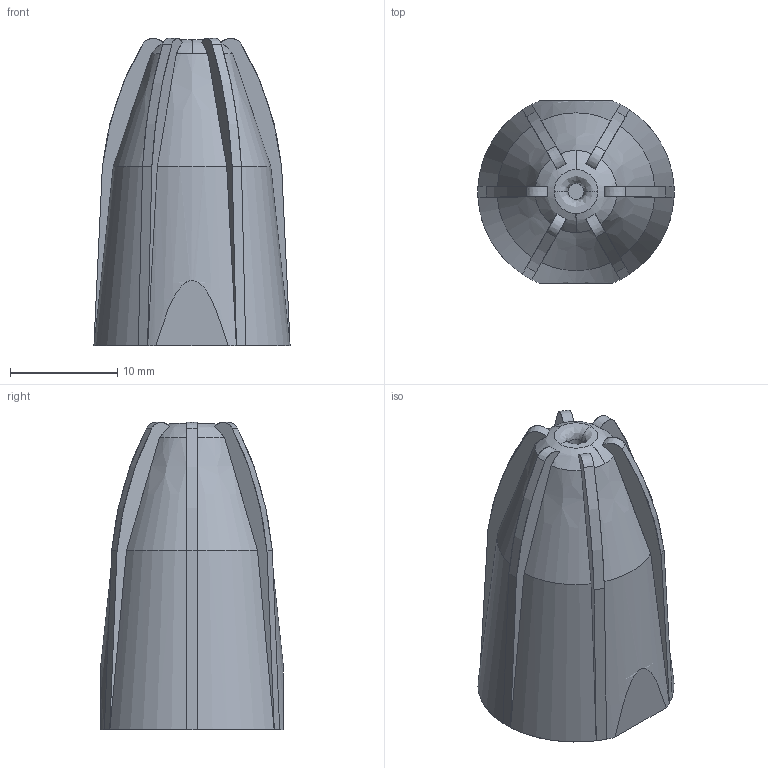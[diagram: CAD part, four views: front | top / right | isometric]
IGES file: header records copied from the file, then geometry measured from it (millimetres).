
Start section: SolidWorks IGES file using analytic representation for surfaces
Global section: file name: G:\Silvent\Ritningar\Övrigt\IGES\Nya sedan 2007-05-11\Silvent 2120+L.IGS; native system: SolidWorks 2006 by SolidWorks Corporation; preprocessor: SolidWorks 2006 by SolidWorks Corporation; author: SilvRaTi; date: 080115.090140; units: millimetre
Bounding box: 18.3 x 17 x 28.65 mm (x, y, z)
Surface area: 2501.8 mm2 (no closed solid volume)
Topology: 0 solids, 0 shells, 55 faces, 632 edges, 632 vertices
Faces by surface type: revolution 28, bspline 27
